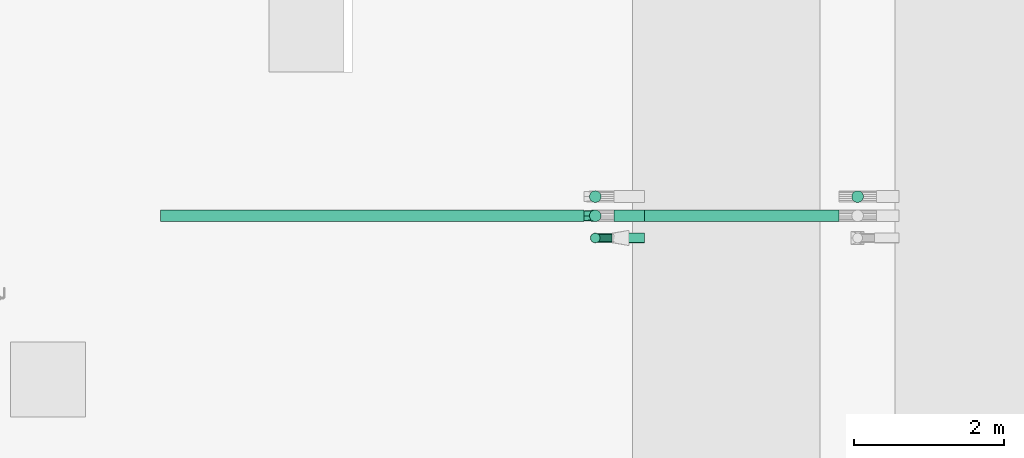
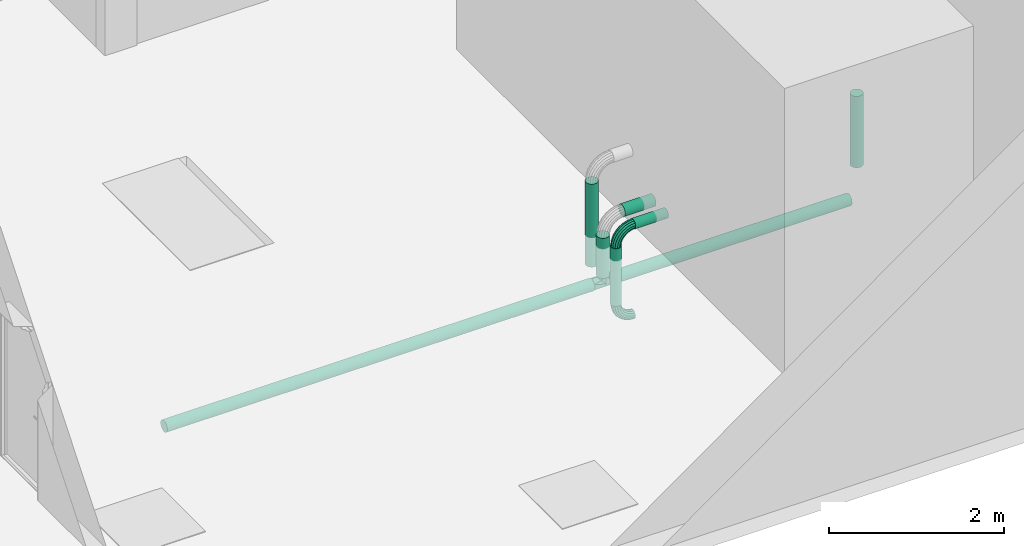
# One storey, part 19 of 23: 8 flow segments, 3 flow fittings.
"""IFC2X3 building model written with IfcOpenShell, lengths in millimetres."""

from ifc_helpers import new_model, entity, si_unit, converted_unit, direction, frame, origin, origin_2d_with_axis, place, context, subcontext, project, spatial, circle, extrude, faceted_brep, source, transform, mapped, material, type_object, type_shapes, element, save


model = new_model("IFC2X3")

# Units and contexts
model_context = context("Model", 3, precision=0.01, world=origin(), true_north=direction((6.123031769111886e-17, 1.0)))
body_context = subcontext(model_context, "Body", "Model", "MODEL_VIEW")
ifc_project = project(units=[si_unit("LENGTHUNIT", "METRE", prefix="MILLI"), converted_unit("PLANEANGLEUNIT", "DEGREE", entity("IfcPlaneAngleMeasure", 0.017453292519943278), si_unit("PLANEANGLEUNIT", "RADIAN"), dimensions=[0, 0, 0, 0, 0, 0, 0]), si_unit("AREAUNIT", "SQUARE_METRE")], contexts=[model_context])

# Site, building, storey
site_placement = place(None, frame((7776.576483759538, 118.3519876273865, 0.0)))
site = spatial("IfcSite", under=ifc_project, at=site_placement, Name="Default", CompositionType="ELEMENT")
building_placement = place(site_placement, origin())
building = spatial("IfcBuilding", under=site, at=building_placement, Name="Bygning (endres i Project Information)", CompositionType="ELEMENT")
storey_placement = place(building_placement, frame((0.0, 0.0, 19000.0)))
storey = spatial("IfcBuildingStorey", under=building, at=storey_placement, Name="Plan 01", CompositionType="ELEMENT", Elevation=19000.0)

# Flow segments
ifc_material_1 = material(Name="SS 2343 Rustfritt stål, prosessrør, generisk")
pipe_segment_type = type_object("IfcPipeSegmentType", Name="Pipe Types:AISI 304L Rustfritt", PredefinedType="NOTDEFINED", material=ifc_material_1)
flow_segment_1_placement = place(storey_placement, origin())
element("IfcFlowSegment", 1, at=flow_segment_1_placement, inside=storey, type_object=pipe_segment_type, Name="Pipe Types:AISI 304L Rustfritt", ObjectType="Pipe Types:AISI 304L Rustfritt", context=body_context, shape_type="SweptSolid", body=[
    extrude(circle(Radius=78.0, at=origin_2d_with_axis()), frame((27824.001374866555, 25237.75730578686, -250.0)), (0.0, 0.0, 1.0), 996.2612635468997),
])
flow_segment_2_placement = place(storey_placement, origin())
element("IfcFlowSegment", 2, at=flow_segment_2_placement, inside=storey, type_object=pipe_segment_type, Name="Pipe Types:AISI 304L Rustfritt", ObjectType="Pipe Types:AISI 304L Rustfritt", context=body_context, shape_type="SweptSolid", body=[
    extrude(circle(Radius=78.0, at=origin_2d_with_axis()), frame((24574.001374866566, 24981.757305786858, 396.26126354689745), z_axis=(1.0, 0.0, 0.0), x_axis=(0.0, 1.0, 0.0)), (0.0, 0.0, 1.0), 409.175621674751),
])
flow_segment_3_placement = place(storey_placement, origin())
element("IfcFlowSegment", 3, at=flow_segment_3_placement, inside=storey, type_object=pipe_segment_type, Name="Pipe Types:AISI 304L Rustfritt", ObjectType="Pipe Types:AISI 304L Rustfritt", context=body_context, shape_type="SweptSolid", body=[
    extrude(circle(Radius=78.0, at=origin_2d_with_axis()), frame((24324.001374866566, 24981.757305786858, -414.28571428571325), z_axis=(0.0, 0.0, 1.0), x_axis=(-1.0, 0.0, 0.0)), (0.0, 0.0, 1.0), 560.5469778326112),
])
flow_segment_4_placement = place(storey_placement, origin())
element("IfcFlowSegment", 4, at=flow_segment_4_placement, inside=storey, type_object=pipe_segment_type, Name="Pipe Types:AISI 304L Rustfritt", ObjectType="Pipe Types:AISI 304L Rustfritt", context=body_context, shape_type="SweptSolid", body=[
    extrude(circle(Radius=78.0, at=origin_2d_with_axis()), frame((24474.001374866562, 24981.757305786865, -500.0), z_axis=(1.0, 0.0, 0.0), x_axis=(0.0, 1.0, 0.0)), (0.0, 0.0, 1.0), 3099.9999999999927),
])
flow_segment_5_placement = place(storey_placement, origin())
element("IfcFlowSegment", 5, at=flow_segment_5_placement, inside=storey, type_object=pipe_segment_type, Name="Pipe Types:AISI 304L Rustfritt", ObjectType="Pipe Types:AISI 304L Rustfritt", context=body_context, shape_type="SweptSolid", body=[
    extrude(circle(Radius=78.0, at=origin_2d_with_axis()), frame((18524.00137486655, 24981.757305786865, -500.0), z_axis=(1.0, 0.0, 0.0), x_axis=(0.0, 1.0, 0.0)), (0.0, 0.0, 1.0), 5650.000000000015),
])
flow_segment_6_placement = place(storey_placement, origin())
element("IfcFlowSegment", 6, at=flow_segment_6_placement, inside=storey, type_object=pipe_segment_type, Name="Pipe Types:AISI 304L Rustfritt", ObjectType="Pipe Types:AISI 304L Rustfritt", context=body_context, shape_type="SweptSolid", body=[
    extrude(circle(Radius=78.0, at=origin_2d_with_axis()), frame((24324.001374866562, 25237.757305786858, -414.28571428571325), z_axis=(0.0, 0.0, 1.0), x_axis=(-1.0, 0.0, 0.0)), (0.0, 0.0, 1.0), 1160.5469778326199),
])
flow_segment_7_placement = place(storey_placement, origin())
element("IfcFlowSegment", 7, at=flow_segment_7_placement, inside=storey, type_object=pipe_segment_type, Name="Pipe Types:AISI 304L Rustfritt", ObjectType="Pipe Types:AISI 304L Rustfritt", context=body_context, shape_type="SweptSolid", body=[
    extrude(circle(Radius=65.5, at=origin_2d_with_axis()), frame((24549.001374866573, 24685.75730578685, 396.30000000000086), z_axis=(1.0, 0.0, 0.0), x_axis=(0.0, 1.0, 0.0)), (0.0, 0.0, 1.0), 434.17562167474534),
])
flow_segment_8_placement = place(storey_placement, origin())
element("IfcFlowSegment", 8, at=flow_segment_8_placement, inside=storey, type_object=pipe_segment_type, Name="Pipe Types:AISI 304L Rustfritt", ObjectType="Pipe Types:AISI 304L Rustfritt", context=body_context, shape_type="SweptSolid", body=[
    extrude(circle(Radius=65.5, at=origin_2d_with_axis()), frame((24324.00137486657, 24685.75730578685, -635.0)), (0.0, 0.0, 1.0), 806.2999999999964),
])

# Flow fittings
ifc_material_2 = material(Name="Rustfritt")
pipe_fitting_type_1 = type_object("IfcPipeFittingType", Name="T-rør,Rustfritt EN 1,4307304L, sveiste, oppkraget, metrisk, EN 10253-4:Standard", PredefinedType="NOTDEFINED", material=ifc_material_2)
shared_shape_1 = source(origin(), body_context, "Body", "Brep", [
    faceted_brep([(-150.0, 38.49999999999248, -66.68395609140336), (-150.0, 37.49999999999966, -64.95190528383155), (-150.0, 56.24999999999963, -32.4759526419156), (-150.0, 75.0, 0.0), (-150.0, 58.22570226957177, -32.518037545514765), (-150.0, 0.0, -64.9519052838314), (-150.0, -37.50000000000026, -64.95190528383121), (-150.0, 0.0, -66.68395609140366), (-150.0, -38.50000000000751, -66.68395609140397), (-150.0, -56.250000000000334, -32.47595264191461), (-150.0, -75.0, 0.0), (-150.0, -57.75000000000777, -33.34197804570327), (-150.0, -77.0, 0.0), (-150.0, -65.97619893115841, 15.629681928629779), (-150.0, -56.25000000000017, 32.475952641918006), (-150.0, -37.50000000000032, 64.95190528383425), (-150.0, -67.61285111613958, 16.25901880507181), (-150.0, -57.75000000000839, 33.3419780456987), (-150.0, -38.500000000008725, 66.68395609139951), (-150.0, 0.0, 66.68395609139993), (-150.0, 38.4999999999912, 66.68395609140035), (-150.0, 0.0, 64.95190528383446), (-150.0, 37.4999999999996, 64.95190528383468), (-150.0, 57.74999999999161, 33.34197804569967), (-150.0, 77.0, 0.0), (-150.0, 56.95239642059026, 31.25936635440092), (150.0, 38.499999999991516, -66.68395609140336), (150.0, 75.0, 0.0), (150.0, 56.24999999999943, -32.47595264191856), (150.0, 57.749999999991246, -33.34197804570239), (150.0, 37.49999999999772, -64.95190528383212), (150.0, 0.0, -64.95190528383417), (150.0, -37.50000000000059, -64.95190528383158), (150.0, 0.0, -66.68395609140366), (150.0, 77.0, 0.0), (150.0, 56.249999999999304, 32.47595264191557), (150.0, 37.49999999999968, 64.95190528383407), (150.0, 57.749999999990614, 33.34197804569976), (150.0, 38.499999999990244, 66.68395609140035), (150.0, 0.0, 64.95190528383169), (150.0, -37.50000000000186, 64.95190528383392), (150.0, 0.0, 66.68395609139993), (150.0, -38.50000000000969, 66.68395609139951), (150.0, -57.75000000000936, 33.34197804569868), (150.0, -77.0, 0.0), (150.0, -56.25000000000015, 32.47595264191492), (150.0, -75.0, 0.0), (150.0, -67.61285113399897, -16.259018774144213), (150.0, -57.75000000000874, -33.34197804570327), (150.0, -38.50000000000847, -66.68395609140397), (150.0, -56.25000000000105, -32.475952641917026), (150.0, -65.97619884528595, -15.629682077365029), (65.77906443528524, -65.77906443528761, 27.16804452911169), (54.55812887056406, -54.558128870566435, 54.33608905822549), (0.0, 0.0, 77.0), (-44.65656453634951, -44.65656453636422, 62.72791439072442), (77.0, -77.0, 0.0), (-77.0, -77.0, 0.0), (-68.9141411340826, -68.91414113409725, 15.68197859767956), (-60.828282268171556, -60.82828226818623, 31.363957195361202), (-59.763127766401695, -59.76312776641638, 33.42975260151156), (0.0, 0.0, -77.0), (68.91414113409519, -68.91414113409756, -15.681978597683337), (60.828282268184, -60.82828226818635, -31.36395719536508), (59.7631277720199, -59.76312777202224, -33.42975259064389), (44.65656453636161, -44.656564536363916, -62.72791439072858), (-65.77906443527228, -65.77906443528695, -27.16804452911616), (-54.55812887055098, -54.558128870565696, -54.33608905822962), (38.50000000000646, -85.71428571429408, -66.68395609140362), (75.0, -85.71428571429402, 0.0), (67.10417402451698, -85.71428571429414, -13.675971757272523), (60.572489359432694, -85.71428571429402, -28.453283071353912), (59.20834804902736, -85.7142857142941, -27.35194351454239), (37.50000000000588, -85.71428571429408, -64.95190528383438), (0.0, -85.71428571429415, -64.95190528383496), (-37.499999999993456, -85.71428571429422, -64.95190528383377), (0.0, -85.71428571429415, -66.68395609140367), (68.78624467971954, -85.71428571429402, -14.226641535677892), (77.0, -85.71428571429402, 0.0), (56.25000000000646, -85.71428571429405, 32.475952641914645), (37.500000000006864, -85.71428571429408, 64.95190528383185), (57.750000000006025, -85.71428571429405, 33.34197804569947), (38.50000000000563, -85.71428571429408, 66.68395609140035), (0.0, -85.71428571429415, 64.95190528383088), (-37.49999999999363, -85.71428571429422, 64.9519052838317), (0.0, -85.71428571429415, 66.68395609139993), (-38.4999999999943, -85.71428571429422, 66.68395609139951), (-60.57248947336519, -85.71428571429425, 28.45328287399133), (-68.7862447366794, -85.71428571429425, 14.226641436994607), (-77.0, -85.71428571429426, 0.0), (-59.20834518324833, -85.71428571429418, 27.35194847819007), (-67.10417259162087, -85.71428571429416, 13.67597423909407), (-75.0, -85.71428571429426, 0.0), (-57.74999999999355, -85.71428571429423, -33.34197804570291), (-38.499999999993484, -85.71428571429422, -66.68395609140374), (-56.2499999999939, -85.71428571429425, -32.47595264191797), (-64.06768997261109, -64.06768997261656, -26.465219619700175), (-53.1353799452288, -53.13537994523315, -52.93043923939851), (59.24496950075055, -59.24496950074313, -30.551698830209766), (-75.0, -75.0, 0.0), (43.48993900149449, -43.48993900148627, -61.10339766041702), (67.12248475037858, -67.12248475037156, -15.275849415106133), (58.423333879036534, -58.42333387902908, -32.144990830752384), (75.0, -75.0, 0.0), (0.0, 0.0, -75.0), (64.06768997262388, -64.06768997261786, 26.465219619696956), (53.13537994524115, -53.13537994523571, 52.93043923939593), (-67.12248475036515, -67.12248475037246, 15.27584941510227), (-59.24496950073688, -59.24496950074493, 30.55169883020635), (-43.489939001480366, -43.48993900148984, 61.103397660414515), (-58.42333401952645, -58.42333401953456, 32.14499055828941), (0.0, 0.0, 75.0)], [[[0, 1, 2]], [[0, 2, 3]], [[3, 4, 0]], [[0, 5, 1]], [[0, 6, 5]], [[6, 0, 7]], [[6, 7, 8]], [[8, 9, 6]], [[8, 10, 9]], [[10, 8, 11]], [[10, 11, 12]], [[12, 13, 10]], [[12, 14, 13]], [[12, 15, 14]], [[15, 12, 16]], [[15, 16, 17]], [[15, 17, 18]], [[15, 18, 19]], [[15, 19, 20]], [[20, 21, 15]], [[20, 22, 21]], [[22, 20, 23]], [[22, 23, 24]], [[3, 24, 4]], [[24, 3, 25]], [[24, 25, 22]], [[26, 27, 28]], [[27, 26, 29]], [[26, 28, 30]], [[26, 30, 31]], [[26, 31, 32]], [[32, 33, 26]], [[27, 29, 34]], [[34, 35, 27]], [[34, 36, 35]], [[36, 34, 37]], [[36, 37, 38]], [[38, 39, 36]], [[38, 40, 39]], [[40, 38, 41]], [[40, 41, 42]], [[40, 42, 43]], [[40, 43, 44]], [[44, 45, 40]], [[44, 46, 45]], [[46, 44, 47]], [[46, 47, 48]], [[46, 48, 49]], [[49, 32, 50]], [[32, 49, 33]], [[49, 50, 51]], [[49, 51, 46]], [[43, 52, 44]], [[53, 43, 42]], [[54, 42, 41, 38]], [[17, 55, 18]], [[44, 52, 56]], [[12, 57, 16]], [[43, 53, 52]], [[42, 54, 53]], [[24, 23, 20, 38, 37, 34]], [[18, 54, 20, 19]], [[18, 55, 54]], [[16, 57, 58, 59, 60]], [[20, 54, 38]], [[55, 17, 60]], [[60, 17, 16]], [[0, 4, 24, 34, 29, 26]], [[61, 26, 33, 49]], [[0, 26, 61]], [[0, 61, 8, 7]], [[47, 56, 62, 63, 64]], [[65, 48, 64]], [[12, 66, 57]], [[56, 47, 44]], [[64, 48, 47]], [[65, 49, 48]], [[67, 8, 61]], [[11, 66, 12]], [[11, 67, 66]], [[67, 11, 8]], [[49, 65, 61]], [[68, 69, 70]], [[69, 68, 71]], [[68, 70, 72]], [[68, 72, 73]], [[68, 73, 74]], [[68, 74, 75]], [[75, 76, 68]], [[69, 71, 77]], [[69, 77, 78]], [[78, 79, 69]], [[78, 80, 79]], [[80, 78, 81]], [[80, 81, 82]], [[82, 83, 80]], [[82, 84, 83]], [[84, 82, 85]], [[84, 85, 86]], [[84, 86, 87]], [[84, 87, 88]], [[84, 88, 89]], [[89, 90, 84]], [[89, 91, 90]], [[89, 92, 91]], [[92, 89, 93]], [[92, 93, 94]], [[94, 75, 95]], [[75, 94, 76]], [[94, 95, 92]], [[86, 55, 60, 59]], [[53, 82, 81]], [[57, 89, 88]], [[55, 86, 85]], [[88, 87, 58]], [[56, 52, 78]], [[85, 53, 54]], [[78, 52, 81]], [[53, 81, 52]], [[87, 59, 58]], [[57, 88, 58]], [[82, 53, 85]], [[55, 85, 54]], [[86, 59, 87]], [[68, 65, 64, 63]], [[67, 94, 93]], [[56, 78, 77]], [[65, 68, 76]], [[68, 63, 71]], [[57, 66, 89]], [[77, 71, 62]], [[89, 66, 93]], [[67, 93, 66]], [[56, 77, 62]], [[76, 67, 61]], [[94, 67, 76]], [[65, 76, 61]], [[71, 63, 62]], [[96, 95, 97]], [[95, 96, 92]], [[72, 98, 73]], [[92, 96, 99]], [[74, 73, 100]], [[95, 75, 97]], [[101, 72, 70]], [[73, 98, 102, 100]], [[101, 70, 103]], [[101, 98, 72]], [[104, 97, 74]], [[97, 75, 74]], [[104, 74, 100]], [[69, 103, 70]], [[105, 79, 106]], [[107, 90, 91]], [[90, 108, 84]], [[69, 105, 103]], [[83, 84, 109]], [[79, 105, 69]], [[84, 108, 110, 109]], [[99, 91, 92]], [[107, 91, 99]], [[79, 80, 106]], [[111, 106, 83]], [[106, 80, 83]], [[111, 83, 109]], [[107, 108, 90]], [[10, 96, 9]], [[6, 9, 97]], [[31, 30, 104, 32]], [[32, 100, 50]], [[99, 96, 10]], [[51, 103, 46]], [[51, 50, 102]], [[97, 104, 6]], [[96, 97, 9]], [[1, 5, 6, 104]], [[3, 2, 1, 30, 28, 27]], [[104, 100, 32]], [[1, 104, 30]], [[51, 102, 98, 101, 103]], [[102, 50, 100]], [[110, 14, 109]], [[25, 3, 27, 35, 36, 22]], [[111, 15, 21, 22]], [[111, 22, 36]], [[111, 36, 39, 40]], [[105, 106, 45]], [[109, 15, 111]], [[14, 15, 109]], [[13, 99, 10]], [[13, 14, 110]], [[103, 105, 46]], [[45, 106, 40]], [[106, 111, 40]], [[46, 105, 45]], [[13, 110, 108, 107, 99]]]),
])
type_shapes(pipe_fitting_type_1, [shared_shape_1])
flow_fitting_placement = place(storey_placement, frame((24324.001374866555, 24981.757305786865, -500.0), z_axis=(0.0, 1.0, 0.0), x_axis=(1.0, 0.0, 0.0)))
element("IfcFlowFitting", 9, at=flow_fitting_placement, inside=storey, type_object=pipe_fitting_type_1, material=ifc_material_2, Name="T-rør,Rustfritt EN 1,4307304L, sveiste, oppkraget, metrisk, EN 10253-4:Standard", ObjectType="T-rør,Rustfritt EN 1,4307304L, sveiste, oppkraget, metrisk, EN 10253-4:Standard", context=body_context, shape_type="MappedRepresentation", body=[
    mapped(shared_shape_1, transform((0.0, 0.0, 0.0), scale=1.0)),
])
pipe_fitting_type_2 = type_object("IfcPipeFittingType", Name="VA_prosess_rustfritt_bend_D+100:VA_prosess_rustfritt_bend_D+100", PredefinedType="NOTDEFINED", material=ifc_material_1)
shared_shape_2 = source(origin(), body_context, "Body", "Brep", [
    faceted_brep([(-161.02523148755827, -55.291774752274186, 0.0), (-162.4025127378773, -49.25751132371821, 27.117733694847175), (-225.0, -56.310554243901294, 27.117733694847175), (-225.0, -62.50000000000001, 0.0), (-166.26156904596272, -32.34988091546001, 48.86446765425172), (-225.0, -38.968112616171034, 48.86446765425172), (-171.83806698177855, -7.917647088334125, 60.93299451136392), (-225.0, -13.907558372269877, 60.93299451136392), (-178.0275127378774, 19.20008660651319, 60.93299451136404), (-225.0, 13.90755837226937, 60.93299451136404), (-183.60401067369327, 43.632320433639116, 48.86446765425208), (-225.0, 38.96811261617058, 48.86446765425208), (-187.46306698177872, 60.53995084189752, 27.117733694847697), (-225.0, 56.31055424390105, 27.117733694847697), (-188.8403482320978, 66.57421427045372, 0.0), (-225.0, 62.50000000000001, 0.0), (-187.46306698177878, 60.53995084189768, -27.117733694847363), (-225.0, 56.31055424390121, -27.117733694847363), (-183.60401067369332, 43.63232043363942, -48.86446765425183), (-225.0, 38.96811261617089, -48.86446765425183), (-178.0275127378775, 19.20008660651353, -60.932994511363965), (-225.0, 13.90755837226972, -60.932994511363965), (-171.8380669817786, -7.917647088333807, -60.932994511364), (-225.0, -13.907558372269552, -60.932994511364), (-166.26156904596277, -32.34988091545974, -48.864467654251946), (-225.0, -38.96811261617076, -48.864467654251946), (-162.40251273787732, -49.25751132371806, -27.11773369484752), (-225.0, -56.31055424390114, -27.11773369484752), (-100.25842500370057, -34.028549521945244, 0.0), (-102.94392487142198, -28.452051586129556, 27.117733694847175), (-110.46852829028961, -12.82705158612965, 48.86446765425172), (-121.34189526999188, 9.751727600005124, 60.93299451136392), (-133.41042212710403, 34.812281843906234, 60.93299451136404), (-144.28378910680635, 57.39106103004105, 48.86446765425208), (-151.80839252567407, 73.01606103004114, 27.117733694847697), (-154.49389239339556, 78.59255896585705, 0.0), (-151.80839252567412, 73.01606103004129, -27.117733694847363), (-144.28378910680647, 57.391061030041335, -48.86446765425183), (-133.4104221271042, 34.812281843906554, -60.932994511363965), (-121.34189526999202, 9.751727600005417, -60.932994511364), (-110.46852829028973, -12.827051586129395, -48.864467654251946), (-102.94392487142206, -28.452051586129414, -27.11773369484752), (-45.74668196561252, 0.22344879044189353, 0.0), (-49.60573827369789, 5.06255234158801, 27.117733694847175), (-60.4185737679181, 18.621419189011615, 48.86446765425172), (-76.04357376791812, 38.2145494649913, 60.93299451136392), (-93.3860153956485, 59.96128342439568, 60.93299451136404), (-109.01101539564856, 79.5544137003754, 48.86446765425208), (-119.8238508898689, 93.11328054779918, 27.117733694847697), (-123.68290719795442, 97.95238409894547, 0.0), (-119.82385088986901, 93.11328054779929, -27.117733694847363), (-109.01101539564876, 79.55441370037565, -48.86446765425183), (-93.38601539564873, 59.96128342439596, -60.932994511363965), (-76.04357376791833, 38.214549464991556, -60.932994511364), (-60.418573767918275, 18.62141918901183, -48.864467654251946), (-49.60573827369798, 5.06255234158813, -27.11773369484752), (-0.22344879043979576, 45.7466819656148, 0.0), (-5.062552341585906, 49.60573827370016, 27.117733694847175), (-18.621419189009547, 60.41857376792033, 48.86446765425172), (-38.2145494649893, 76.04357376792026, 60.93299451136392), (-59.96128342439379, 93.38601539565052, 60.93299451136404), (-79.55441370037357, 109.01101539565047, 48.86446765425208), (-93.11328054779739, 119.82385088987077, 27.117733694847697), (-97.9523840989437, 123.6829071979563, 0.0), (-93.1132805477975, 119.82385088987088, -27.117733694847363), (-79.55441370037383, 109.01101539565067, -48.86446765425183), (-59.96128342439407, 93.38601539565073, -60.932994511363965), (-38.21454946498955, 76.04357376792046, -60.932994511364), (-18.621419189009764, 60.418573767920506, -48.864467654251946), (-5.062552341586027, 49.60573827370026, -27.11773369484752), (34.02854952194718, 100.25842500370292, 0.0), (28.452051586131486, 102.94392487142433, 27.117733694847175), (12.827051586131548, 110.4685282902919, 48.86446765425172), (-9.751727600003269, 121.34189526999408, 60.93299451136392), (-34.81228184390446, 133.4104221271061, 60.93299451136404), (-57.39106103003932, 144.28378910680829, 48.86446765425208), (-73.01606103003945, 151.80839252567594, 27.117733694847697), (-78.59255896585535, 154.4938923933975, 0.0), (-73.0160610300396, 151.80839252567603, -27.117733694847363), (-57.3910610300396, 144.28378910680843, -48.86446765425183), (-34.81228184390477, 133.41042212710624, -60.932994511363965), (-9.751727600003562, 121.34189526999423, -60.932994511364), (12.827051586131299, 110.46852829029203, -48.864467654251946), (28.452051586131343, 102.9439248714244, -27.11773369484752), (55.29177475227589, 161.0252314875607, 0.0), (49.257511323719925, 162.40251273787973, 27.117733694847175), (32.34988091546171, 166.2615690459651, 48.86446765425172), (7.917647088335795, 171.8380669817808, 60.93299451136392), (-19.200086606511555, 178.02751273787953, 60.93299451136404), (-43.63232043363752, 183.60401067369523, 48.86446765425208), (-60.539950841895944, 187.46306698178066, 27.117733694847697), (-66.57421427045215, 188.84034823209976, 0.0), (-60.53995084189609, 187.46306698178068, -27.117733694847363), (-43.63232043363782, 183.6040106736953, -48.86446765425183), (-19.2000866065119, 178.02751273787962, -60.932994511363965), (7.917647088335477, 171.83806698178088, -60.932994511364), (32.34988091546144, 166.26156904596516, -48.864467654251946), (49.257511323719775, 162.40251273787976, -27.11773369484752), (62.500000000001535, 225.0, 0.0), (56.31055424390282, 225.0, 27.117733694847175), (38.96811261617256, 225.0, 48.86446765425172), (13.9075583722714, 225.0, 60.93299451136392), (-13.907558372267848, 225.0, 60.93299451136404), (-38.96811261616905, 225.0, 48.86446765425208), (-56.310554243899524, 225.0, 27.117733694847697), (-62.49999999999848, 225.0, 0.0), (-56.31055424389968, 225.0, -27.117733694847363), (-38.968112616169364, 225.0, -48.86446765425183), (-13.907558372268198, 225.0, -60.932994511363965), (13.907558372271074, 225.0, -60.932994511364), (38.968112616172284, 225.0, -48.864467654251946), (56.310554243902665, 225.0, -27.11773369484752)], [[[0, 1, 2, 3]], [[1, 4, 5, 2]], [[4, 6, 7, 5]], [[6, 8, 9, 7]], [[8, 10, 11, 9]], [[10, 12, 13, 11]], [[12, 14, 15, 13]], [[14, 16, 17, 15]], [[16, 18, 19, 17]], [[18, 20, 21, 19]], [[20, 22, 23, 21]], [[22, 24, 25, 23]], [[24, 26, 27, 25]], [[26, 0, 3, 27]], [[28, 29, 1, 0]], [[29, 30, 4, 1]], [[30, 31, 6, 4]], [[31, 32, 8, 6]], [[32, 33, 10, 8]], [[33, 34, 12, 10]], [[34, 35, 14, 12]], [[35, 36, 16, 14]], [[36, 37, 18, 16]], [[37, 38, 20, 18]], [[38, 39, 22, 20]], [[39, 40, 24, 22]], [[40, 41, 26, 24]], [[41, 28, 0, 26]], [[42, 43, 29, 28]], [[43, 44, 30, 29]], [[44, 45, 31, 30]], [[45, 46, 32, 31]], [[46, 47, 33, 32]], [[47, 48, 34, 33]], [[48, 49, 35, 34]], [[49, 50, 36, 35]], [[50, 51, 37, 36]], [[51, 52, 38, 37]], [[52, 53, 39, 38]], [[53, 54, 40, 39]], [[54, 55, 41, 40]], [[55, 42, 28, 41]], [[56, 57, 43, 42]], [[57, 58, 44, 43]], [[58, 59, 45, 44]], [[59, 60, 46, 45]], [[60, 61, 47, 46]], [[61, 62, 48, 47]], [[62, 63, 49, 48]], [[63, 64, 50, 49]], [[64, 65, 51, 50]], [[65, 66, 52, 51]], [[66, 67, 53, 52]], [[67, 68, 54, 53]], [[68, 69, 55, 54]], [[69, 56, 42, 55]], [[70, 71, 57, 56]], [[71, 72, 58, 57]], [[72, 73, 59, 58]], [[73, 74, 60, 59]], [[74, 75, 61, 60]], [[75, 76, 62, 61]], [[76, 77, 63, 62]], [[77, 78, 64, 63]], [[78, 79, 65, 64]], [[79, 80, 66, 65]], [[80, 81, 67, 66]], [[81, 82, 68, 67]], [[82, 83, 69, 68]], [[83, 70, 56, 69]], [[84, 85, 71, 70]], [[85, 86, 72, 71]], [[86, 87, 73, 72]], [[87, 88, 74, 73]], [[88, 89, 75, 74]], [[89, 90, 76, 75]], [[90, 91, 77, 76]], [[91, 92, 78, 77]], [[92, 93, 79, 78]], [[93, 94, 80, 79]], [[94, 95, 81, 80]], [[95, 96, 82, 81]], [[96, 97, 83, 82]], [[97, 84, 70, 83]], [[98, 99, 85, 84]], [[99, 100, 86, 85]], [[100, 101, 87, 86]], [[101, 102, 88, 87]], [[102, 103, 89, 88]], [[103, 104, 90, 89]], [[104, 105, 91, 90]], [[105, 106, 92, 91]], [[106, 107, 93, 92]], [[107, 108, 94, 93]], [[108, 109, 95, 94]], [[109, 110, 96, 95]], [[110, 111, 97, 96]], [[111, 98, 84, 97]], [[3, 2, 5, 7, 9, 11, 13, 15, 17, 19, 21, 23, 25, 27]], [[111, 110, 109, 108, 107, 106, 105, 104, 103, 102, 101, 100, 99, 98]]]),
])
type_shapes(pipe_fitting_type_2, [shared_shape_2])
for number, where, z_axis, x_axis in (
    (10, (24324.00137486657, 24685.75730578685, 396.30000000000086), (0.0, -1.0, 0.0), (-1.0, 0.0, 0.0)),
    (11, (24324.00137486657, 24685.75730578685, -860.0), (0.0, -1.0, 0.0), (0.0, 0.0, -1.0)),
):
    element("IfcFlowFitting", number, at=place(storey_placement, frame(where, z_axis=z_axis, x_axis=x_axis)), inside=storey, type_object=pipe_fitting_type_2, material=ifc_material_1, Name="VA_prosess_rustfritt_bend_D+100:VA_prosess_rustfritt_bend_D+100", ObjectType="VA_prosess_rustfritt_bend_D+100:VA_prosess_rustfritt_bend_D+100", context=body_context, shape_type="MappedRepresentation", body=[
        mapped(shared_shape_2, transform((0.0, 0.0, 0.0), scale=1.0)),
    ])

save(model, "model.ifc")
